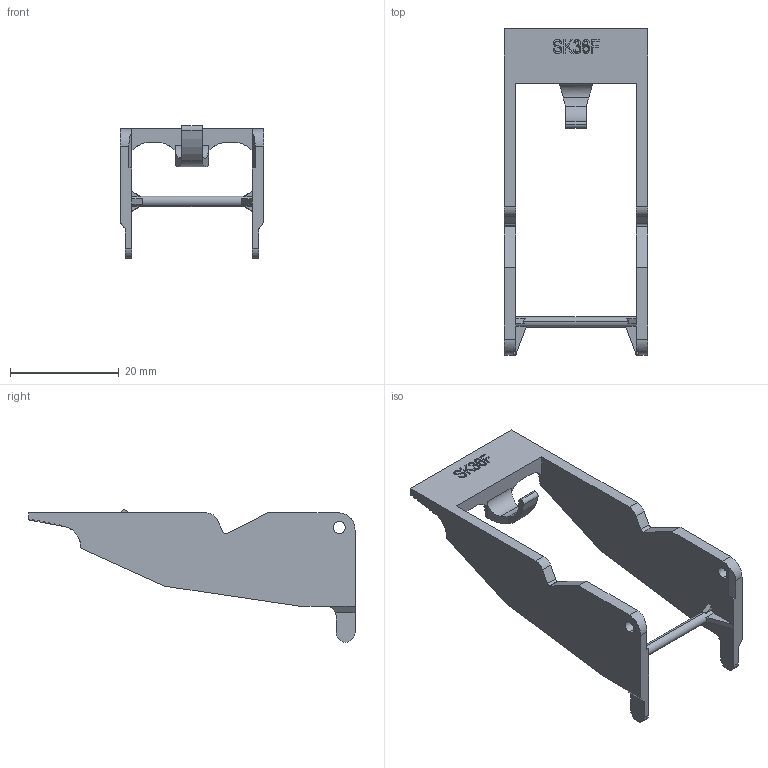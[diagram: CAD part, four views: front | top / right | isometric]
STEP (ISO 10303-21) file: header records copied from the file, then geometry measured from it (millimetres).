
FILE_DESCRIPTION (( 'STEP AP203' ), '1' );
FILE_NAME ('SK36F °â¿Û.STEP', '2019-12-19T07:54:04', ( '' ), ( '' ), 'SwSTEP 2.0', 'SolidWorks 2018', '' );
FILE_SCHEMA (( 'CONFIG_CONTROL_DESIGN' ));
Length unit declared in the file: millimetre
Products named in the file (1): SK36F 售諶
Bounding box: 26.4 x 60 x 24.36 mm (x, y, z)
Volume: 3678.6 mm3; surface area: 4403.4 mm2
Topology: 1 solids, 1 shells, 193 faces, 551 edges, 364 vertices
Faces by surface type: plane 99, cylinder 53, bspline 41
Entity records: 8566 total; most frequent: CARTESIAN_POINT 3686, ORIENTED_EDGE 1102, DIRECTION 861, EDGE_CURVE 551, VERTEX_POINT 364, VECTOR 335, LINE 335, AXIS2_PLACEMENT_3D 263
